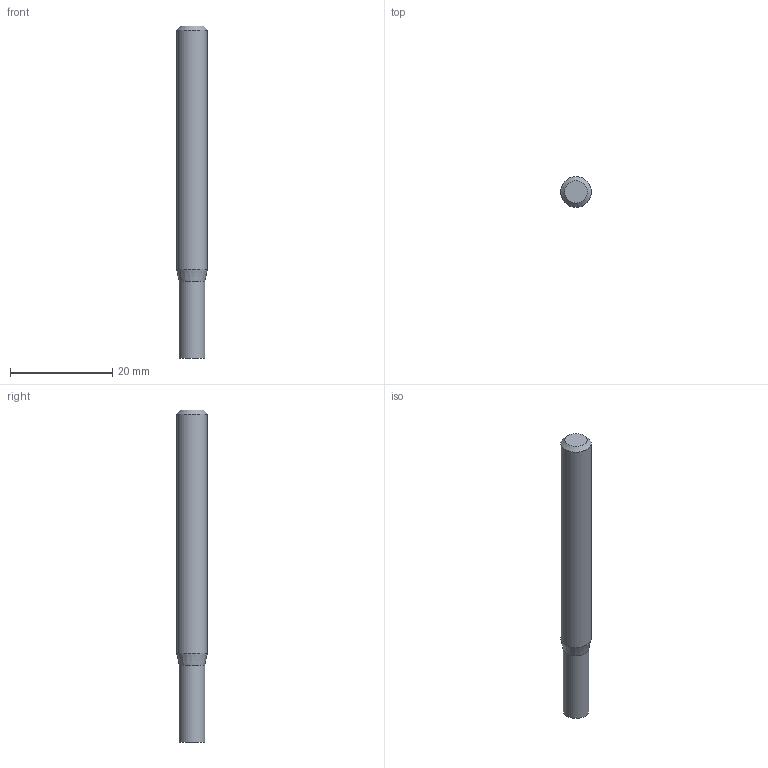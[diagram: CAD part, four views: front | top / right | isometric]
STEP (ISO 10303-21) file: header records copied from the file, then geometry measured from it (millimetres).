
FILE_DESCRIPTION((''),'2;1');
FILE_NAME('C:\Users\nsx150\AppData\Local\Temp\Mastercam 2021\Y59DX2IYLB\TEMP.step','2021-04-08T17:09:47',(''),(''),'STEP Write','Mastercam 2021 ... CNC Software, Inc.','');
FILE_SCHEMA(('AUTOMOTIVE_DESIGN'));
Length unit declared in the file: millimetre
Products named in the file (1): None
Bounding box: 6 x 6 x 65 mm (x, y, z)
Volume: 1692.3 mm3; surface area: 1252.8 mm2
Topology: 2 solids, 2 shells, 8 faces, 10 edges, 6 vertices
Faces by surface type: plane 4, cylinder 2, cone 2
Full cylindrical faces by diameter (mm): 5 x1, 6 x1
Entity records: 190 total; most frequent: DIRECTION 32, CARTESIAN_POINT 22, AXIS2_PLACEMENT_3D 16, ORIENTED_EDGE 12, EDGE_LOOP 12, STYLED_ITEM 11, ADVANCED_FACE 8, VERTEX_POINT 6
